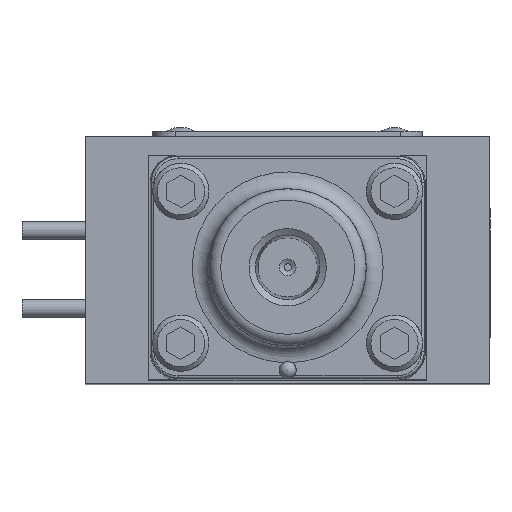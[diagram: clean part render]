
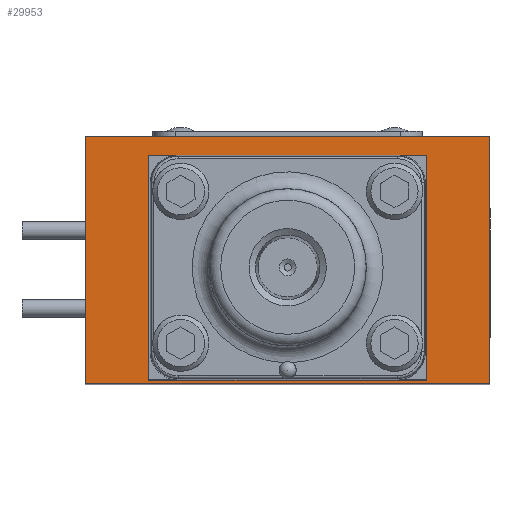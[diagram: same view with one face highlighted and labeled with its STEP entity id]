
A CAD part, top view. The second image highlights one B-rep face of the part: STEP entity #29953.
In plain terms, the highlighted planar face has unit normal (0, 0, 1).
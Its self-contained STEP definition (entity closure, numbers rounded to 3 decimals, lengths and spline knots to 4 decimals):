
#1241=FACE_BOUND('',#4166,.T.);
#1487=PLANE('',#31897);
#2369=FACE_OUTER_BOUND('',#4165,.T.);
#4165=EDGE_LOOP('',(#19655,#19656,#19657,#19658));
#4166=EDGE_LOOP('',(#19659,#19660,#19661,#19662,#19663,#19664,#19665,#19666));
#6133=CIRCLE('',#31880,0.4064);
#6135=CIRCLE('',#31884,0.4064);
#6137=CIRCLE('',#31887,0.4064);
#6139=CIRCLE('',#31891,0.4064);
#7615=LINE('',#44932,#9847);
#7621=LINE('',#44953,#9853);
#7631=LINE('',#44981,#9863);
#7632=LINE('',#44983,#9864);
#7633=LINE('',#44985,#9865);
#7634=LINE('',#44986,#9866);
#7635=LINE('',#44987,#9867);
#7636=LINE('',#44988,#9868);
#9847=VECTOR('',#35398,1.);
#9853=VECTOR('',#35418,1.);
#9863=VECTOR('',#35444,1.);
#9864=VECTOR('',#35445,1.);
#9865=VECTOR('',#35446,1.);
#9866=VECTOR('',#35447,1.);
#9867=VECTOR('',#35448,1.);
#9868=VECTOR('',#35449,1.);
#12158=VERTEX_POINT('',#44922);
#12159=VERTEX_POINT('',#44923);
#12162=VERTEX_POINT('',#44931);
#12164=VERTEX_POINT('',#44937);
#12166=VERTEX_POINT('',#44943);
#12167=VERTEX_POINT('',#44944);
#12170=VERTEX_POINT('',#44952);
#12172=VERTEX_POINT('',#44958);
#12179=VERTEX_POINT('',#44979);
#12180=VERTEX_POINT('',#44980);
#12181=VERTEX_POINT('',#44982);
#12182=VERTEX_POINT('',#44984);
#15025=EDGE_CURVE('',#12158,#12159,#6133,.T.);
#15029=EDGE_CURVE('',#12162,#12158,#7615,.T.);
#15032=EDGE_CURVE('',#12164,#12162,#6135,.T.);
#15035=EDGE_CURVE('',#12166,#12167,#6137,.T.);
#15039=EDGE_CURVE('',#12170,#12166,#7621,.T.);
#15042=EDGE_CURVE('',#12172,#12170,#6139,.T.);
#15052=EDGE_CURVE('',#12179,#12180,#7631,.T.);
#15053=EDGE_CURVE('',#12181,#12180,#7632,.T.);
#15054=EDGE_CURVE('',#12181,#12182,#7633,.T.);
#15055=EDGE_CURVE('',#12182,#12179,#7634,.T.);
#15056=EDGE_CURVE('',#12159,#12172,#7635,.T.);
#15057=EDGE_CURVE('',#12167,#12164,#7636,.T.);
#19655=ORIENTED_EDGE('',*,*,#15052,.T.);
#19656=ORIENTED_EDGE('',*,*,#15053,.F.);
#19657=ORIENTED_EDGE('',*,*,#15054,.T.);
#19658=ORIENTED_EDGE('',*,*,#15055,.T.);
#19659=ORIENTED_EDGE('',*,*,#15025,.T.);
#19660=ORIENTED_EDGE('',*,*,#15056,.T.);
#19661=ORIENTED_EDGE('',*,*,#15042,.T.);
#19662=ORIENTED_EDGE('',*,*,#15039,.T.);
#19663=ORIENTED_EDGE('',*,*,#15035,.T.);
#19664=ORIENTED_EDGE('',*,*,#15057,.T.);
#19665=ORIENTED_EDGE('',*,*,#15032,.T.);
#19666=ORIENTED_EDGE('',*,*,#15029,.T.);
#29953=ADVANCED_FACE('',(#2369,#1241),#1487,.T.);
#31880=AXIS2_PLACEMENT_3D('',#44924,#35390,#35391);
#31884=AXIS2_PLACEMENT_3D('',#44938,#35403,#35404);
#31887=AXIS2_PLACEMENT_3D('',#44945,#35410,#35411);
#31891=AXIS2_PLACEMENT_3D('',#44959,#35423,#35424);
#31897=AXIS2_PLACEMENT_3D('',#44978,#35442,#35443);
#35390=DIRECTION('center_axis',(0.,0.,-1.));
#35391=DIRECTION('ref_axis',(-1.,0.,0.));
#35398=DIRECTION('',(0.,-1.,0.));
#35403=DIRECTION('center_axis',(0.,0.,-1.));
#35404=DIRECTION('ref_axis',(0.,-1.,0.));
#35410=DIRECTION('center_axis',(0.,0.,-1.));
#35411=DIRECTION('ref_axis',(1.,0.,0.));
#35418=DIRECTION('',(0.,1.,0.));
#35423=DIRECTION('center_axis',(0.,0.,-1.));
#35424=DIRECTION('ref_axis',(0.,1.,0.));
#35442=DIRECTION('center_axis',(0.,0.,1.));
#35443=DIRECTION('ref_axis',(1.,0.,0.));
#35444=DIRECTION('',(-1.,0.,0.));
#35445=DIRECTION('',(0.,1.,0.));
#35446=DIRECTION('',(1.,0.,0.));
#35447=DIRECTION('',(0.,1.,0.));
#35448=DIRECTION('',(-1.,0.,0.));
#35449=DIRECTION('',(1.,0.,0.));
#44922=CARTESIAN_POINT('',(1.9444,-1.1811,4.7104));
#44923=CARTESIAN_POINT('',(1.538,-1.5875,4.7104));
#44924=CARTESIAN_POINT('Origin',(1.538,-1.1811,4.7104));
#44931=CARTESIAN_POINT('',(1.9444,1.1811,4.7104));
#44932=CARTESIAN_POINT('',(1.9444,-0.5906,4.7104));
#44937=CARTESIAN_POINT('',(1.538,1.5875,4.7104));
#44938=CARTESIAN_POINT('Origin',(1.538,1.1811,4.7104));
#44943=CARTESIAN_POINT('',(-1.9444,1.1811,4.7104));
#44944=CARTESIAN_POINT('',(-1.538,1.5875,4.7104));
#44945=CARTESIAN_POINT('Origin',(-1.538,1.1811,4.7104));
#44952=CARTESIAN_POINT('',(-1.9444,-1.1811,4.7104));
#44953=CARTESIAN_POINT('',(-1.9444,0.5906,4.7104));
#44958=CARTESIAN_POINT('',(-1.538,-1.5875,4.7104));
#44959=CARTESIAN_POINT('Origin',(-1.538,-1.1811,4.7104));
#44978=CARTESIAN_POINT('Origin',(2.8575,0.,4.7104));
#44979=CARTESIAN_POINT('',(2.8575,1.8567,4.7104));
#44980=CARTESIAN_POINT('',(-2.8575,1.8567,4.7104));
#44981=CARTESIAN_POINT('',(-2.8575,1.8567,4.7104));
#44982=CARTESIAN_POINT('',(-2.8575,-1.6358,4.7104));
#44983=CARTESIAN_POINT('',(-2.8575,0.,4.7104));
#44984=CARTESIAN_POINT('',(2.8575,-1.6358,4.7104));
#44985=CARTESIAN_POINT('',(-2.8575,-1.6358,4.7104));
#44986=CARTESIAN_POINT('',(2.8575,0.,4.7104));
#44987=CARTESIAN_POINT('',(0.6598,-1.5875,4.7104));
#44988=CARTESIAN_POINT('',(2.1977,1.5875,4.7104));
